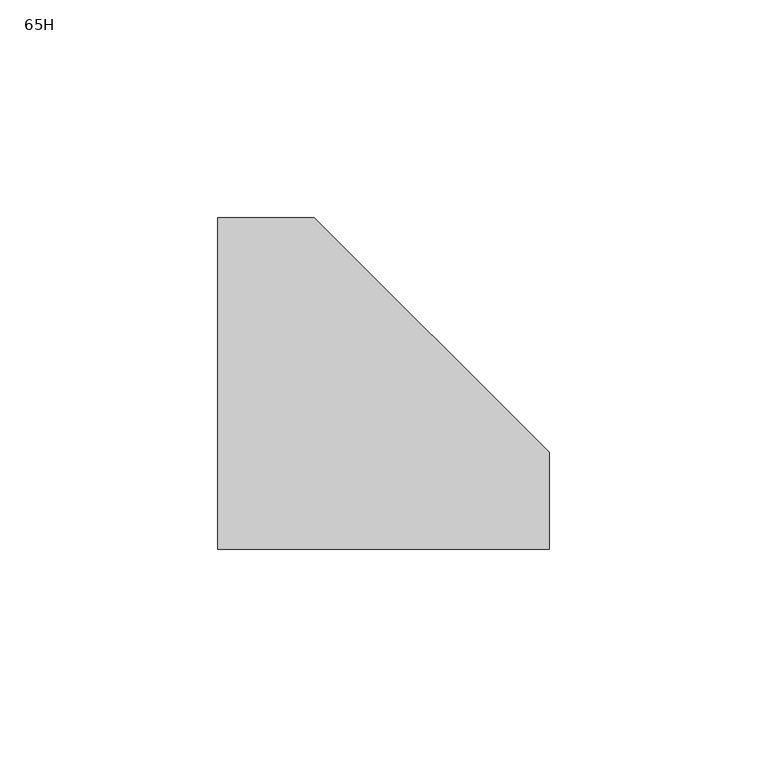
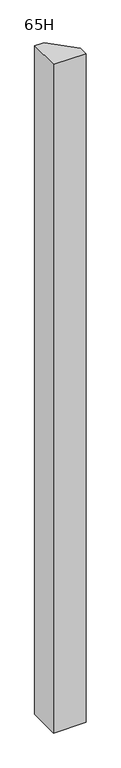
"""IFC4 building model written with IfcOpenShell, lengths in millimetres: furniture geometry, Steelcase - Montage - Junction - L Chamfered- Same-Height : 65H."""

from ifc_helpers import new_model, si_unit, frame, origin, place, context, project, spatial, polyline, outline, extrude, source, transform, mapped, element, save


def furniture_65h_35de318b(model_context):
    return source(origin(), model_context, "Body", "SweptSolid", [
        extrude(outline(polyline([(533.4, -15.8750015), (533.4, -38.1000015), (457.2, -38.1000015), (457.2, 38.1000015), (479.424997, 38.1000015), (533.4, -15.8750015)])), frame((0.0, 0.0, 4.064), z_axis=(0.0, 0.0, 1.0), x_axis=(1.0, 0.0, 0.0)), (0.0, 0.0, 1.0), 1656.461),
    ])


if __name__ == "__main__":
    model = new_model("IFC4")
    model_context = context("Model", 3, world=origin())
    ifc_project = project(units=[si_unit("LENGTHUNIT", "METRE", prefix="MILLI")], contexts=[model_context])
    site = spatial("IfcSite", under=ifc_project)
    building = spatial("IfcBuilding", under=site)
    placement = place(None, origin())
    furniture_65h_shape = furniture_65h_35de318b(model_context)
    element("IfcFurniture", 1, ObjectType="Steelcase - Montage - Junction - L Chamfered- Same-Height : 65H", at=placement, inside=building, context=model_context, shape_type="MappedRepresentation", body=[
        mapped(furniture_65h_shape, transform((0.0, 0.0, 0.0), x_axis=(1.0, 0.0, 0.0), y_axis=(0.0, 1.0, 0.0), z_axis=(0.0, 0.0, 1.0))),
    ])
    save(model, "model.ifc")
